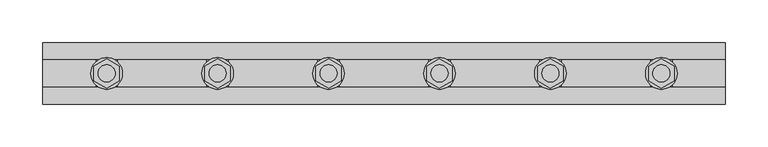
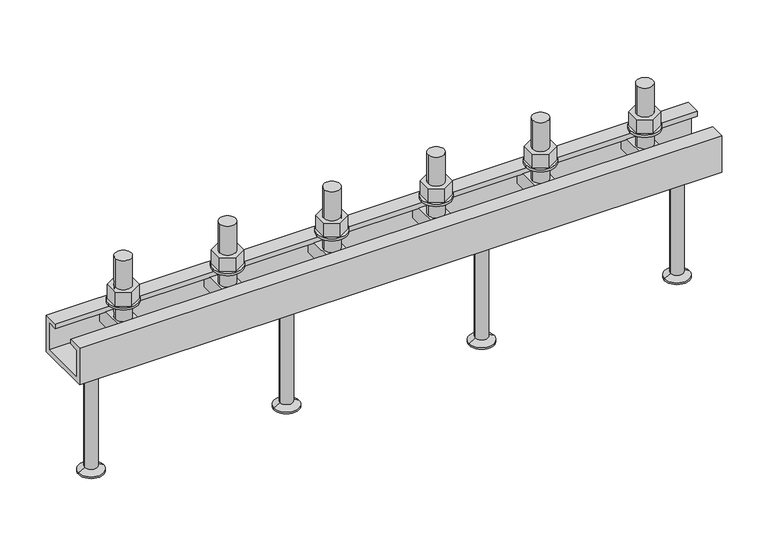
"""IFC4 building model written with IfcOpenShell, lengths in millimetres: fastener geometry, JTA-K JORDAHL® AnchorChannels : JTA-K L=800 mm."""

from ifc_helpers import new_model, si_unit, point, frame, frame_2d, origin, place, context, project, spatial, polyline, circle_curve, trimmed, segment, composite_curve, outline, extrude, source, transform, mapped, element, save
from ifc_brep_helpers import plane_surface, cylinder_surface, revolved_surface, advanced_brep


def fastener_f4c04970(model_context):
    return source(origin(), model_context, "Body", "SolidModel", [
        extrude(outline(polyline([(595.0, -17.3205081), (580.0, -8.660254), (580.0, 8.660254), (595.0, 17.3205081), (610.0, 8.660254), (610.0, -8.660254), (595.0, -17.3205081)]), holes=[composite_curve([segment(trimmed(circle_curve(frame_2d((595.0, 0.0)), 10.0), [point((585.0, 0.0))], [point((605.0, 0.0))], True, "CARTESIAN"), True, "CONTINUOUS"), segment(trimmed(circle_curve(frame_2d((595.0, 0.0)), 10.0), [point((605.0, 0.0))], [point((585.0, 0.0))], True, "CARTESIAN"), True, "CONTINUOUS")], self_intersect=False)]), frame((0.0, 0.0, 18.0), z_axis=(0.0, 0.0, 1.0), x_axis=(1.0, 0.0, 0.0)), (0.0, 0.0, 1.0), 18.0),
        extrude(outline(composite_curve([segment(trimmed(circle_curve(frame_2d((595.0, 0.0)), 18.5), [point((576.5, 0.0))], [point((613.5, 0.0))], False, "CARTESIAN"), True, "CONTINUOUS"), segment(trimmed(circle_curve(frame_2d((595.0, 0.0)), 18.5), [point((613.5, 0.0))], [point((576.5, 0.0))], False, "CARTESIAN"), True, "CONTINUOUS")], self_intersect=False), holes=[composite_curve([segment(trimmed(circle_curve(frame_2d((595.0, 0.0)), 10.5), [point((584.5, 0.0))], [point((605.5, 0.0))], True, "CARTESIAN"), True, "CONTINUOUS"), segment(trimmed(circle_curve(frame_2d((595.0, 0.0)), 10.5), [point((605.5, 0.0))], [point((584.5, 0.0))], True, "CARTESIAN"), True, "CONTINUOUS")], self_intersect=False)]), frame((0.0, 0.0, 15.0), z_axis=(0.0, 0.0, 1.0), x_axis=(1.0, 0.0, 0.0)), (0.0, 0.0, 1.0), 3.0),
        extrude(outline(polyline([(465.0, -17.3205081), (450.0, -8.660254), (450.0, 8.660254), (465.0, 17.3205081), (480.0, 8.660254), (480.0, -8.660254), (465.0, -17.3205081)]), holes=[composite_curve([segment(trimmed(circle_curve(frame_2d((465.0, 0.0)), 10.0), [point((455.0, 0.0))], [point((475.0, 0.0))], True, "CARTESIAN"), True, "CONTINUOUS"), segment(trimmed(circle_curve(frame_2d((465.0, 0.0)), 10.0), [point((475.0, 0.0))], [point((455.0, 0.0))], True, "CARTESIAN"), True, "CONTINUOUS")], self_intersect=False)]), frame((0.0, 0.0, 18.0), z_axis=(0.0, 0.0, 1.0), x_axis=(1.0, 0.0, 0.0)), (0.0, 0.0, 1.0), 18.0),
        extrude(outline(composite_curve([segment(trimmed(circle_curve(frame_2d((465.0, 0.0)), 18.5), [point((446.5, 0.0))], [point((483.5, 0.0))], False, "CARTESIAN"), True, "CONTINUOUS"), segment(trimmed(circle_curve(frame_2d((465.0, 0.0)), 18.5), [point((483.5, 0.0))], [point((446.5, 0.0))], False, "CARTESIAN"), True, "CONTINUOUS")], self_intersect=False), holes=[composite_curve([segment(trimmed(circle_curve(frame_2d((465.0, 0.0)), 10.5), [point((454.5, 0.0))], [point((475.5, 0.0))], True, "CARTESIAN"), True, "CONTINUOUS"), segment(trimmed(circle_curve(frame_2d((465.0, 0.0)), 10.5), [point((475.5, 0.0))], [point((454.5, 0.0))], True, "CARTESIAN"), True, "CONTINUOUS")], self_intersect=False)]), frame((0.0, 0.0, 15.0), z_axis=(0.0, 0.0, 1.0), x_axis=(1.0, 0.0, 0.0)), (0.0, 0.0, 1.0), 3.0),
        extrude(outline(polyline([(335.0, -17.3205081), (320.0, -8.660254), (320.0, 8.660254), (335.0, 17.3205081), (350.0, 8.660254), (350.0, -8.660254), (335.0, -17.3205081)]), holes=[composite_curve([segment(trimmed(circle_curve(frame_2d((335.0, 0.0)), 10.0), [point((325.0, 0.0))], [point((345.0, 0.0))], True, "CARTESIAN"), True, "CONTINUOUS"), segment(trimmed(circle_curve(frame_2d((335.0, 0.0)), 10.0), [point((345.0, 0.0))], [point((325.0, 0.0))], True, "CARTESIAN"), True, "CONTINUOUS")], self_intersect=False)]), frame((0.0, 0.0, 18.0), z_axis=(0.0, 0.0, 1.0), x_axis=(1.0, 0.0, 0.0)), (0.0, 0.0, 1.0), 18.0),
        extrude(outline(composite_curve([segment(trimmed(circle_curve(frame_2d((335.0, 0.0)), 18.5), [point((316.5, 0.0))], [point((353.5, 0.0))], False, "CARTESIAN"), True, "CONTINUOUS"), segment(trimmed(circle_curve(frame_2d((335.0, 0.0)), 18.5), [point((353.5, 0.0))], [point((316.5, 0.0))], False, "CARTESIAN"), True, "CONTINUOUS")], self_intersect=False), holes=[composite_curve([segment(trimmed(circle_curve(frame_2d((335.0, 0.0)), 10.5), [point((324.5, 0.0))], [point((345.5, 0.0))], True, "CARTESIAN"), True, "CONTINUOUS"), segment(trimmed(circle_curve(frame_2d((335.0, 0.0)), 10.5), [point((345.5, 0.0))], [point((324.5, 0.0))], True, "CARTESIAN"), True, "CONTINUOUS")], self_intersect=False)]), frame((0.0, 0.0, 15.0), z_axis=(0.0, 0.0, 1.0), x_axis=(1.0, 0.0, 0.0)), (0.0, 0.0, 1.0), 3.0),
        extrude(outline(polyline([(205.0, -17.3205081), (190.0, -8.660254), (190.0, 8.660254), (205.0, 17.3205081), (220.0, 8.660254), (220.0, -8.660254), (205.0, -17.3205081)]), holes=[composite_curve([segment(trimmed(circle_curve(frame_2d((205.0, 0.0)), 10.0), [point((195.0, 0.0))], [point((215.0, 0.0))], True, "CARTESIAN"), True, "CONTINUOUS"), segment(trimmed(circle_curve(frame_2d((205.0, 0.0)), 10.0), [point((215.0, 0.0))], [point((195.0, 0.0))], True, "CARTESIAN"), True, "CONTINUOUS")], self_intersect=False)]), frame((0.0, 0.0, 18.0), z_axis=(0.0, 0.0, 1.0), x_axis=(1.0, 0.0, 0.0)), (0.0, 0.0, 1.0), 18.0),
        extrude(outline(composite_curve([segment(trimmed(circle_curve(frame_2d((205.0, 0.0)), 18.5), [point((186.5, 0.0))], [point((223.5, 0.0))], False, "CARTESIAN"), True, "CONTINUOUS"), segment(trimmed(circle_curve(frame_2d((205.0, 0.0)), 18.5), [point((223.5, 0.0))], [point((186.5, 0.0))], False, "CARTESIAN"), True, "CONTINUOUS")], self_intersect=False), holes=[composite_curve([segment(trimmed(circle_curve(frame_2d((205.0, 0.0)), 10.5), [point((194.5, 0.0))], [point((215.5, 0.0))], True, "CARTESIAN"), True, "CONTINUOUS"), segment(trimmed(circle_curve(frame_2d((205.0, 0.0)), 10.5), [point((215.5, 0.0))], [point((194.5, 0.0))], True, "CARTESIAN"), True, "CONTINUOUS")], self_intersect=False)]), frame((0.0, 0.0, 15.0), z_axis=(0.0, 0.0, 1.0), x_axis=(1.0, 0.0, 0.0)), (0.0, 0.0, 1.0), 3.0),
        advanced_brep(
        [(607.5, -29.0, -6.0), (607.5, -29.0, -26.0), (607.5, 29.0, -26.0), (607.5, 29.0, -6.0), (582.5, -29.0, -6.0), (582.5, 29.0, -6.0), (582.5, 29.0, -26.0), (582.5, -29.0, -26.0), (605.0, 0.0, -6.0), (585.0, 0.0, -6.0), (585.0, 0.0, 74.0), (605.0, 0.0, 74.0)],
        [
            (0, 1),
            (1, 2),
            (2, 3),
            (3, 0),
            (4, 5),
            (5, 6),
            (6, 7),
            (7, 4),
            (3, 5),
            (4, 0),
            (8, 9, circle_curve(frame((595.0, 0.0, -6.0), z_axis=(0.0, 0.0, -1.0), x_axis=(1.0, 0.0, 0.0)), 10.0)),
            (9, 8, circle_curve(frame((595.0, 0.0, -6.0), z_axis=(0.0, 0.0, -1.0), x_axis=(1.0, 0.0, 0.0)), 10.0)),
            (2, 6),
            (1, 7),
            (10, 11, circle_curve(frame((595.0, 0.0, 74.0), z_axis=(0.0, 0.0, 1.0), x_axis=(1.0, 0.0, 0.0)), 10.0)),
            (11, 10, circle_curve(frame((595.0, 0.0, 74.0), z_axis=(0.0, 0.0, 1.0), x_axis=(1.0, 0.0, 0.0)), 10.0)),
            (11, 8),
            (9, 10),
        ],
        [
            plane_surface(frame((607.5, 29.0, -6.0), z_axis=(1.0, 0.0, 0.0), x_axis=(0.0, 1.0, 0.0))),
            plane_surface(frame((582.5, 29.0, -6.0), z_axis=(-1.0, 0.0, 0.0), x_axis=(0.0, -1.0, 0.0))),
            plane_surface(frame((607.5, -29.0, -6.0), z_axis=(0.0, 0.0, 1.0), x_axis=(-1.0, 0.0, 0.0))),
            plane_surface(frame((607.5, 29.0, -6.0), z_axis=(0.0, 1.0, 0.0), x_axis=(-1.0, 0.0, 0.0))),
            plane_surface(frame((607.5, 29.0, -26.0), z_axis=(0.0, 0.0, -1.0), x_axis=(-1.0, 0.0, 0.0))),
            plane_surface(frame((607.5, -29.0, -26.0), z_axis=(0.0, -1.0, 0.0), x_axis=(-1.0, 0.0, 0.0))),
            plane_surface(frame((605.0, 0.0, 74.0), z_axis=(0.0, 0.0, 1.0), x_axis=(0.0, -1.0, 0.0))),
            cylinder_surface(frame((595.0, 0.0, -6.0), z_axis=(0.0, 0.0, 1.0), x_axis=(1.0, 0.0, 0.0)), 10.0),
        ],
        [
            (0, [[1, 2, 3, 4]]),
            (1, [[5, 6, 7, 8]]),
            (2, [[9, -5, 10, -4], [11, 12]]),
            (3, [[13, -6, -9, -3]]),
            (4, [[14, -7, -13, -2]]),
            (5, [[-10, -8, -14, -1]]),
            (6, [[15, 16]]),
            (7, [[17, -12, 18, -16]]),
            (7, [[-18, -11, -17, -15]]),
        ],
    ),
        advanced_brep(
        [(477.5, -29.0, -6.0), (477.5, -29.0, -26.0), (477.5, 29.0, -26.0), (477.5, 29.0, -6.0), (452.5, -29.0, -6.0), (452.5, 29.0, -6.0), (452.5, 29.0, -26.0), (452.5, -29.0, -26.0), (475.0, 0.0, -6.0), (455.0, 0.0, -6.0), (455.0, 0.0, 74.0), (475.0, 0.0, 74.0)],
        [
            (0, 1),
            (1, 2),
            (2, 3),
            (3, 0),
            (4, 5),
            (5, 6),
            (6, 7),
            (7, 4),
            (3, 5),
            (4, 0),
            (8, 9, circle_curve(frame((465.0, 0.0, -6.0), z_axis=(0.0, 0.0, -1.0), x_axis=(1.0, 0.0, 0.0)), 10.0)),
            (9, 8, circle_curve(frame((465.0, 0.0, -6.0), z_axis=(0.0, 0.0, -1.0), x_axis=(1.0, 0.0, 0.0)), 10.0)),
            (2, 6),
            (1, 7),
            (10, 11, circle_curve(frame((465.0, 0.0, 74.0), z_axis=(0.0, 0.0, 1.0), x_axis=(1.0, 0.0, 0.0)), 10.0)),
            (11, 10, circle_curve(frame((465.0, 0.0, 74.0), z_axis=(0.0, 0.0, 1.0), x_axis=(1.0, 0.0, 0.0)), 10.0)),
            (11, 8),
            (9, 10),
        ],
        [
            plane_surface(frame((477.5, 29.0, -6.0), z_axis=(1.0, 0.0, 0.0), x_axis=(0.0, 1.0, 0.0))),
            plane_surface(frame((452.5, 29.0, -6.0), z_axis=(-1.0, 0.0, 0.0), x_axis=(0.0, -1.0, 0.0))),
            plane_surface(frame((477.5, -29.0, -6.0), z_axis=(0.0, 0.0, 1.0), x_axis=(-1.0, 0.0, 0.0))),
            plane_surface(frame((477.5, 29.0, -6.0), z_axis=(0.0, 1.0, 0.0), x_axis=(-1.0, 0.0, 0.0))),
            plane_surface(frame((477.5, 29.0, -26.0), z_axis=(0.0, 0.0, -1.0), x_axis=(-1.0, 0.0, 0.0))),
            plane_surface(frame((477.5, -29.0, -26.0), z_axis=(0.0, -1.0, 0.0), x_axis=(-1.0, 0.0, 0.0))),
            plane_surface(frame((475.0, 0.0, 74.0), z_axis=(0.0, 0.0, 1.0), x_axis=(0.0, -1.0, 0.0))),
            cylinder_surface(frame((465.0, 0.0, -6.0), z_axis=(0.0, 0.0, 1.0), x_axis=(1.0, 0.0, 0.0)), 10.0),
        ],
        [
            (0, [[1, 2, 3, 4]]),
            (1, [[5, 6, 7, 8]]),
            (2, [[9, -5, 10, -4], [11, 12]]),
            (3, [[13, -6, -9, -3]]),
            (4, [[14, -7, -13, -2]]),
            (5, [[-10, -8, -14, -1]]),
            (6, [[15, 16]]),
            (7, [[17, -12, 18, -16]]),
            (7, [[-18, -11, -17, -15]]),
        ],
    ),
        advanced_brep(
        [(347.5, -29.0, -6.0), (347.5, -29.0, -26.0), (347.5, 29.0, -26.0), (347.5, 29.0, -6.0), (322.5, -29.0, -6.0), (322.5, 29.0, -6.0), (322.5, 29.0, -26.0), (322.5, -29.0, -26.0), (345.0, 0.0, -6.0), (325.0, 0.0, -6.0), (325.0, 0.0, 74.0), (345.0, 0.0, 74.0)],
        [
            (0, 1),
            (1, 2),
            (2, 3),
            (3, 0),
            (4, 5),
            (5, 6),
            (6, 7),
            (7, 4),
            (3, 5),
            (4, 0),
            (8, 9, circle_curve(frame((335.0, 0.0, -6.0), z_axis=(0.0, 0.0, -1.0), x_axis=(1.0, 0.0, 0.0)), 10.0)),
            (9, 8, circle_curve(frame((335.0, 0.0, -6.0), z_axis=(0.0, 0.0, -1.0), x_axis=(1.0, 0.0, 0.0)), 10.0)),
            (2, 6),
            (1, 7),
            (10, 11, circle_curve(frame((335.0, 0.0, 74.0), z_axis=(0.0, 0.0, 1.0), x_axis=(1.0, 0.0, 0.0)), 10.0)),
            (11, 10, circle_curve(frame((335.0, 0.0, 74.0), z_axis=(0.0, 0.0, 1.0), x_axis=(1.0, 0.0, 0.0)), 10.0)),
            (11, 8),
            (9, 10),
        ],
        [
            plane_surface(frame((347.5, 29.0, -6.0), z_axis=(1.0, 0.0, 0.0), x_axis=(0.0, 1.0, 0.0))),
            plane_surface(frame((322.5, 29.0, -6.0), z_axis=(-1.0, 0.0, 0.0), x_axis=(0.0, -1.0, 0.0))),
            plane_surface(frame((347.5, -29.0, -6.0), z_axis=(0.0, 0.0, 1.0), x_axis=(-1.0, 0.0, 0.0))),
            plane_surface(frame((347.5, 29.0, -6.0), z_axis=(0.0, 1.0, 0.0), x_axis=(-1.0, 0.0, 0.0))),
            plane_surface(frame((347.5, 29.0, -26.0), z_axis=(0.0, 0.0, -1.0), x_axis=(-1.0, 0.0, 0.0))),
            plane_surface(frame((347.5, -29.0, -26.0), z_axis=(0.0, -1.0, 0.0), x_axis=(-1.0, 0.0, 0.0))),
            plane_surface(frame((345.0, 0.0, 74.0), z_axis=(0.0, 0.0, 1.0), x_axis=(0.0, -1.0, 0.0))),
            cylinder_surface(frame((335.0, 0.0, -6.0), z_axis=(0.0, 0.0, 1.0), x_axis=(1.0, 0.0, 0.0)), 10.0),
        ],
        [
            (0, [[1, 2, 3, 4]]),
            (1, [[5, 6, 7, 8]]),
            (2, [[9, -5, 10, -4], [11, 12]]),
            (3, [[13, -6, -9, -3]]),
            (4, [[14, -7, -13, -2]]),
            (5, [[-10, -8, -14, -1]]),
            (6, [[15, 16]]),
            (7, [[17, -12, 18, -16]]),
            (7, [[-18, -11, -17, -15]]),
        ],
    ),
        advanced_brep(
        [(217.5, -29.0, -6.0), (217.5, -29.0, -26.0), (217.5, 29.0, -26.0), (217.5, 29.0, -6.0), (192.5, -29.0, -6.0), (192.5, 29.0, -6.0), (192.5, 29.0, -26.0), (192.5, -29.0, -26.0), (215.0, 0.0, -6.0), (195.0, 0.0, -6.0), (195.0, 0.0, 74.0), (215.0, 0.0, 74.0)],
        [
            (0, 1),
            (1, 2),
            (2, 3),
            (3, 0),
            (4, 5),
            (5, 6),
            (6, 7),
            (7, 4),
            (3, 5),
            (4, 0),
            (8, 9, circle_curve(frame((205.0, 0.0, -6.0), z_axis=(0.0, 0.0, -1.0), x_axis=(1.0, 0.0, 0.0)), 10.0)),
            (9, 8, circle_curve(frame((205.0, 0.0, -6.0), z_axis=(0.0, 0.0, -1.0), x_axis=(1.0, 0.0, 0.0)), 10.0)),
            (2, 6),
            (1, 7),
            (10, 11, circle_curve(frame((205.0, 0.0, 74.0), z_axis=(0.0, 0.0, 1.0), x_axis=(1.0, 0.0, 0.0)), 10.0)),
            (11, 10, circle_curve(frame((205.0, 0.0, 74.0), z_axis=(0.0, 0.0, 1.0), x_axis=(1.0, 0.0, 0.0)), 10.0)),
            (11, 8),
            (9, 10),
        ],
        [
            plane_surface(frame((217.5, 29.0, -6.0), z_axis=(1.0, 0.0, 0.0), x_axis=(0.0, 1.0, 0.0))),
            plane_surface(frame((192.5, 29.0, -6.0), z_axis=(-1.0, 0.0, 0.0), x_axis=(0.0, -1.0, 0.0))),
            plane_surface(frame((217.5, -29.0, -6.0), z_axis=(0.0, 0.0, 1.0), x_axis=(-1.0, 0.0, 0.0))),
            plane_surface(frame((217.5, 29.0, -6.0), z_axis=(0.0, 1.0, 0.0), x_axis=(-1.0, 0.0, 0.0))),
            plane_surface(frame((217.5, 29.0, -26.0), z_axis=(0.0, 0.0, -1.0), x_axis=(-1.0, 0.0, 0.0))),
            plane_surface(frame((217.5, -29.0, -26.0), z_axis=(0.0, -1.0, 0.0), x_axis=(-1.0, 0.0, 0.0))),
            plane_surface(frame((215.0, 0.0, 74.0), z_axis=(0.0, 0.0, 1.0), x_axis=(0.0, -1.0, 0.0))),
            cylinder_surface(frame((205.0, 0.0, -6.0), z_axis=(0.0, 0.0, 1.0), x_axis=(1.0, 0.0, 0.0)), 10.0),
        ],
        [
            (0, [[1, 2, 3, 4]]),
            (1, [[5, 6, 7, 8]]),
            (2, [[9, -5, 10, -4], [11, 12]]),
            (3, [[13, -6, -9, -3]]),
            (4, [[14, -7, -13, -2]]),
            (5, [[-10, -8, -14, -1]]),
            (6, [[15, 16]]),
            (7, [[17, -12, 18, -16]]),
            (7, [[-18, -11, -17, -15]]),
        ],
    ),
        advanced_brep(
        [(521.6666667, 0.0, -48.0), (498.6666667, 0.0, -48.0), (544.6666667, 0.0, -48.0), (506.1666667, 0.0, -195.0), (521.6666667, 0.0, -195.0), (537.1666667, 0.0, -195.0), (506.1666667, 0.0, -193.0), (537.1666667, 0.0, -193.0), (513.8666667, 0.0, -188.5544029), (529.4666667, 0.0, -188.5544029), (513.8666667, 0.0, -52.0), (529.4666667, 0.0, -52.0)],
        [
            (0, 1),
            (1, 2, circle_curve(frame((521.6666667, 0.0, -48.0), z_axis=(0.0, 0.0, 1.0), x_axis=(1.0, 0.0, 0.0)), 23.0)),
            (2, 0),
            (2, 1, circle_curve(frame((521.6666667, 0.0, -48.0), z_axis=(0.0, 0.0, 1.0), x_axis=(1.0, 0.0, 0.0)), 23.0)),
            (3, 4),
            (4, 5),
            (5, 3, circle_curve(frame((521.6666667, 0.0, -195.0), z_axis=(0.0, 0.0, -1.0), x_axis=(1.0, 0.0, 0.0)), 15.5)),
            (3, 5, circle_curve(frame((521.6666667, 0.0, -195.0), z_axis=(0.0, 0.0, -1.0), x_axis=(1.0, 0.0, 0.0)), 15.5)),
            (6, 3),
            (5, 7),
            (7, 6, circle_curve(frame((521.6666667, 0.0, -193.0), z_axis=(0.0, 0.0, -1.0), x_axis=(1.0, 0.0, 0.0)), 15.5)),
            (6, 7, circle_curve(frame((521.6666667, 0.0, -193.0), z_axis=(0.0, 0.0, -1.0), x_axis=(1.0, 0.0, 0.0)), 15.5)),
            (8, 6),
            (7, 9),
            (9, 8, circle_curve(frame((521.6666667, 0.0, -188.5544029), z_axis=(0.0, 0.0, -1.0), x_axis=(1.0, 0.0, 0.0)), 7.8)),
            (8, 9, circle_curve(frame((521.6666667, 0.0, -188.5544029), z_axis=(0.0, 0.0, -1.0), x_axis=(1.0, 0.0, 0.0)), 7.8)),
            (10, 8),
            (9, 11),
            (11, 10, circle_curve(frame((521.6666667, 0.0, -52.0), z_axis=(0.0, 0.0, -1.0), x_axis=(1.0, 0.0, 0.0)), 7.8)),
            (10, 11, circle_curve(frame((521.6666667, 0.0, -52.0), z_axis=(0.0, 0.0, -1.0), x_axis=(1.0, 0.0, 0.0)), 7.8)),
            (1, 10),
            (11, 2),
        ],
        [
            plane_surface(frame((521.6666667, 0.0, -48.0), z_axis=(0.0, 0.0, 1.0), x_axis=(1.0, 0.0, 0.0))),
            plane_surface(frame((521.6666667, 0.0, -195.0), z_axis=(0.0, 0.0, -1.0), x_axis=(1.0, 0.0, 0.0))),
            cylinder_surface(frame((521.6666667, 0.0, 2361.3150031), z_axis=(0.0, 0.0, 1.0), x_axis=(1.0, 0.0, 0.0)), 15.5),
            revolved_surface(polyline([(537.1666667, 0.0, -193.0), (529.4666667, 0.0, -188.5544029)]), (521.6666667, 0.0, 2361.3150031), (0.0, 0.0, 1.0)),
            cylinder_surface(frame((521.6666667, 0.0, 2361.3150031), z_axis=(0.0, 0.0, 1.0), x_axis=(1.0, 0.0, 0.0)), 7.8),
            revolved_surface(polyline([(529.4666667, 0.0, -52.0), (544.6666667, 0.0, -48.0)]), (521.6666667, 0.0, 2361.3150031), (0.0, 0.0, 1.0)),
        ],
        [
            (0, [[1, 2, 3]]),
            (0, [[-3, 4, -1]]),
            (1, [[5, 6, 7]]),
            (1, [[-6, -5, 8]]),
            (2, [[9, -7, 10, 11]]),
            (2, [[-10, -8, -9, 12]]),
            (3, [[13, -11, 14, 15]]),
            (3, [[-14, -12, -13, 16]]),
            (4, [[17, -15, 18, 19]]),
            (4, [[-18, -16, -17, 20]]),
            (5, [[21, -19, 22, -2]]),
            (5, [[-22, -20, -21, -4]]),
        ],
    ),
        advanced_brep(
        [(278.3333333, 0.0, -48.0), (255.3333333, 0.0, -48.0), (301.3333333, 0.0, -48.0), (262.8333333, 0.0, -195.0), (278.3333333, 0.0, -195.0), (293.8333333, 0.0, -195.0), (262.8333333, 0.0, -193.0), (293.8333333, 0.0, -193.0), (270.5333333, 0.0, -188.5544029), (286.1333333, 0.0, -188.5544029), (270.5333333, 0.0, -52.0), (286.1333333, 0.0, -52.0)],
        [
            (0, 1),
            (1, 2, circle_curve(frame((278.3333333, 0.0, -48.0), z_axis=(0.0, 0.0, 1.0), x_axis=(1.0, 0.0, 0.0)), 23.0)),
            (2, 0),
            (2, 1, circle_curve(frame((278.3333333, 0.0, -48.0), z_axis=(0.0, 0.0, 1.0), x_axis=(1.0, 0.0, 0.0)), 23.0)),
            (3, 4),
            (4, 5),
            (5, 3, circle_curve(frame((278.3333333, 0.0, -195.0), z_axis=(0.0, 0.0, -1.0), x_axis=(1.0, 0.0, 0.0)), 15.5)),
            (3, 5, circle_curve(frame((278.3333333, 0.0, -195.0), z_axis=(0.0, 0.0, -1.0), x_axis=(1.0, 0.0, 0.0)), 15.5)),
            (6, 3),
            (5, 7),
            (7, 6, circle_curve(frame((278.3333333, 0.0, -193.0), z_axis=(0.0, 0.0, -1.0), x_axis=(1.0, 0.0, 0.0)), 15.5)),
            (6, 7, circle_curve(frame((278.3333333, 0.0, -193.0), z_axis=(0.0, 0.0, -1.0), x_axis=(1.0, 0.0, 0.0)), 15.5)),
            (8, 6),
            (7, 9),
            (9, 8, circle_curve(frame((278.3333333, 0.0, -188.5544029), z_axis=(0.0, 0.0, -1.0), x_axis=(1.0, 0.0, 0.0)), 7.8)),
            (8, 9, circle_curve(frame((278.3333333, 0.0, -188.5544029), z_axis=(0.0, 0.0, -1.0), x_axis=(1.0, 0.0, 0.0)), 7.8)),
            (10, 8),
            (9, 11),
            (11, 10, circle_curve(frame((278.3333333, 0.0, -52.0), z_axis=(0.0, 0.0, -1.0), x_axis=(1.0, 0.0, 0.0)), 7.8)),
            (10, 11, circle_curve(frame((278.3333333, 0.0, -52.0), z_axis=(0.0, 0.0, -1.0), x_axis=(1.0, 0.0, 0.0)), 7.8)),
            (1, 10),
            (11, 2),
        ],
        [
            plane_surface(frame((278.3333333, 0.0, -48.0), z_axis=(0.0, 0.0, 1.0), x_axis=(1.0, 0.0, 0.0))),
            plane_surface(frame((278.3333333, 0.0, -195.0), z_axis=(0.0, 0.0, -1.0), x_axis=(1.0, 0.0, 0.0))),
            cylinder_surface(frame((278.3333333, 0.0, 2361.3150031), z_axis=(0.0, 0.0, 1.0), x_axis=(1.0, 0.0, 0.0)), 15.5),
            revolved_surface(polyline([(293.8333333, 0.0, -193.0), (286.1333333, 0.0, -188.5544029)]), (278.3333333, 0.0, 2361.3150031), (0.0, 0.0, 1.0)),
            cylinder_surface(frame((278.3333333, 0.0, 2361.3150031), z_axis=(0.0, 0.0, 1.0), x_axis=(1.0, 0.0, 0.0)), 7.8),
            revolved_surface(polyline([(286.1333333, 0.0, -52.0), (301.3333333, 0.0, -48.0)]), (278.3333333, 0.0, 2361.3150031), (0.0, 0.0, 1.0)),
        ],
        [
            (0, [[1, 2, 3]]),
            (0, [[-3, 4, -1]]),
            (1, [[5, 6, 7]]),
            (1, [[-6, -5, 8]]),
            (2, [[9, -7, 10, 11]]),
            (2, [[-10, -8, -9, 12]]),
            (3, [[13, -11, 14, 15]]),
            (3, [[-14, -12, -13, 16]]),
            (4, [[17, -15, 18, 19]]),
            (4, [[-18, -16, -17, 20]]),
            (5, [[21, -19, 22, -2]]),
            (5, [[-22, -20, -21, -4]]),
        ],
    ),
        extrude(outline(polyline([(725.0, -17.3205081), (710.0, -8.660254), (710.0, 8.660254), (725.0, 17.3205081), (740.0, 8.660254), (740.0, -8.660254), (725.0, -17.3205081)]), holes=[composite_curve([segment(trimmed(circle_curve(frame_2d((725.0, 0.0)), 10.0), [point((715.0, 0.0))], [point((735.0, 0.0))], True, "CARTESIAN"), True, "CONTINUOUS"), segment(trimmed(circle_curve(frame_2d((725.0, 0.0)), 10.0), [point((735.0, 0.0))], [point((715.0, 0.0))], True, "CARTESIAN"), True, "CONTINUOUS")], self_intersect=False)]), frame((0.0, 0.0, 18.0), z_axis=(0.0, 0.0, 1.0), x_axis=(1.0, 0.0, 0.0)), (0.0, 0.0, 1.0), 18.0),
        extrude(outline(composite_curve([segment(trimmed(circle_curve(frame_2d((725.0, 0.0)), 18.5), [point((706.5, 0.0))], [point((743.5, 0.0))], False, "CARTESIAN"), True, "CONTINUOUS"), segment(trimmed(circle_curve(frame_2d((725.0, 0.0)), 18.5), [point((743.5, 0.0))], [point((706.5, 0.0))], False, "CARTESIAN"), True, "CONTINUOUS")], self_intersect=False), holes=[composite_curve([segment(trimmed(circle_curve(frame_2d((725.0, 0.0)), 10.5), [point((714.5, 0.0))], [point((735.5, 0.0))], True, "CARTESIAN"), True, "CONTINUOUS"), segment(trimmed(circle_curve(frame_2d((725.0, 0.0)), 10.5), [point((735.5, 0.0))], [point((714.5, 0.0))], True, "CARTESIAN"), True, "CONTINUOUS")], self_intersect=False)]), frame((0.0, 0.0, 15.0), z_axis=(0.0, 0.0, 1.0), x_axis=(1.0, 0.0, 0.0)), (0.0, 0.0, 1.0), 3.0),
        extrude(outline(polyline([(75.0, -17.3205081), (60.0, -8.660254), (60.0, 8.660254), (75.0, 17.3205081), (90.0, 8.660254), (90.0, -8.660254), (75.0, -17.3205081)]), holes=[composite_curve([segment(trimmed(circle_curve(frame_2d((75.0, 0.0)), 10.0), [point((65.0, 0.0))], [point((85.0, 0.0))], True, "CARTESIAN"), True, "CONTINUOUS"), segment(trimmed(circle_curve(frame_2d((75.0, 0.0)), 10.0), [point((85.0, 0.0))], [point((65.0, 0.0))], True, "CARTESIAN"), True, "CONTINUOUS")], self_intersect=False)]), frame((0.0, 0.0, 18.0), z_axis=(0.0, 0.0, 1.0), x_axis=(1.0, 0.0, 0.0)), (0.0, 0.0, 1.0), 18.0),
        extrude(outline(composite_curve([segment(trimmed(circle_curve(frame_2d((75.0, 0.0)), 18.5), [point((56.5, 0.0))], [point((93.5, 0.0))], False, "CARTESIAN"), True, "CONTINUOUS"), segment(trimmed(circle_curve(frame_2d((75.0, 0.0)), 18.5), [point((93.5, 0.0))], [point((56.5, 0.0))], False, "CARTESIAN"), True, "CONTINUOUS")], self_intersect=False), holes=[composite_curve([segment(trimmed(circle_curve(frame_2d((75.0, 0.0)), 10.5), [point((64.5, 0.0))], [point((85.5, 0.0))], True, "CARTESIAN"), True, "CONTINUOUS"), segment(trimmed(circle_curve(frame_2d((75.0, 0.0)), 10.5), [point((85.5, 0.0))], [point((64.5, 0.0))], True, "CARTESIAN"), True, "CONTINUOUS")], self_intersect=False)]), frame((0.0, 0.0, 15.0), z_axis=(0.0, 0.0, 1.0), x_axis=(1.0, 0.0, 0.0)), (0.0, 0.0, 1.0), 3.0),
        advanced_brep(
        [(737.5, -29.0, -6.0), (737.5, -29.0, -26.0), (737.5, 29.0, -26.0), (737.5, 29.0, -6.0), (712.5, -29.0, -6.0), (712.5, 29.0, -6.0), (712.5, 29.0, -26.0), (712.5, -29.0, -26.0), (735.0, 0.0, -6.0), (715.0, 0.0, -6.0), (715.0, 0.0, 74.0), (735.0, 0.0, 74.0)],
        [
            (0, 1),
            (1, 2),
            (2, 3),
            (3, 0),
            (4, 5),
            (5, 6),
            (6, 7),
            (7, 4),
            (3, 5),
            (4, 0),
            (8, 9, circle_curve(frame((725.0, 0.0, -6.0), z_axis=(0.0, 0.0, -1.0), x_axis=(1.0, 0.0, 0.0)), 10.0)),
            (9, 8, circle_curve(frame((725.0, 0.0, -6.0), z_axis=(0.0, 0.0, -1.0), x_axis=(1.0, 0.0, 0.0)), 10.0)),
            (2, 6),
            (1, 7),
            (10, 11, circle_curve(frame((725.0, 0.0, 74.0), z_axis=(0.0, 0.0, 1.0), x_axis=(1.0, 0.0, 0.0)), 10.0)),
            (11, 10, circle_curve(frame((725.0, 0.0, 74.0), z_axis=(0.0, 0.0, 1.0), x_axis=(1.0, 0.0, 0.0)), 10.0)),
            (11, 8),
            (9, 10),
        ],
        [
            plane_surface(frame((737.5, 29.0, -6.0), z_axis=(1.0, 0.0, 0.0), x_axis=(0.0, 1.0, 0.0))),
            plane_surface(frame((712.5, 29.0, -6.0), z_axis=(-1.0, 0.0, 0.0), x_axis=(0.0, -1.0, 0.0))),
            plane_surface(frame((737.5, -29.0, -6.0), z_axis=(0.0, 0.0, 1.0), x_axis=(-1.0, 0.0, 0.0))),
            plane_surface(frame((737.5, 29.0, -6.0), z_axis=(0.0, 1.0, 0.0), x_axis=(-1.0, 0.0, 0.0))),
            plane_surface(frame((737.5, 29.0, -26.0), z_axis=(0.0, 0.0, -1.0), x_axis=(-1.0, 0.0, 0.0))),
            plane_surface(frame((737.5, -29.0, -26.0), z_axis=(0.0, -1.0, 0.0), x_axis=(-1.0, 0.0, 0.0))),
            plane_surface(frame((735.0, 0.0, 74.0), z_axis=(0.0, 0.0, 1.0), x_axis=(0.0, -1.0, 0.0))),
            cylinder_surface(frame((725.0, 0.0, -6.0), z_axis=(0.0, 0.0, 1.0), x_axis=(1.0, 0.0, 0.0)), 10.0),
        ],
        [
            (0, [[1, 2, 3, 4]]),
            (1, [[5, 6, 7, 8]]),
            (2, [[9, -5, 10, -4], [11, 12]]),
            (3, [[13, -6, -9, -3]]),
            (4, [[14, -7, -13, -2]]),
            (5, [[-10, -8, -14, -1]]),
            (6, [[15, 16]]),
            (7, [[17, -12, 18, -16]]),
            (7, [[-18, -11, -17, -15]]),
        ],
    ),
        advanced_brep(
        [(87.5, -29.0, -6.0), (87.5, -29.0, -26.0), (87.5, 29.0, -26.0), (87.5, 29.0, -6.0), (62.5, -29.0, -6.0), (62.5, 29.0, -6.0), (62.5, 29.0, -26.0), (62.5, -29.0, -26.0), (85.0, 0.0, -6.0), (65.0, 0.0, -6.0), (65.0, 0.0, 74.0), (85.0, 0.0, 74.0)],
        [
            (0, 1),
            (1, 2),
            (2, 3),
            (3, 0),
            (4, 5),
            (5, 6),
            (6, 7),
            (7, 4),
            (3, 5),
            (4, 0),
            (8, 9, circle_curve(frame((75.0, 0.0, -6.0), z_axis=(0.0, 0.0, -1.0), x_axis=(1.0, 0.0, 0.0)), 10.0)),
            (9, 8, circle_curve(frame((75.0, 0.0, -6.0), z_axis=(0.0, 0.0, -1.0), x_axis=(1.0, 0.0, 0.0)), 10.0)),
            (2, 6),
            (1, 7),
            (10, 11, circle_curve(frame((75.0, 0.0, 74.0), z_axis=(0.0, 0.0, 1.0), x_axis=(1.0, 0.0, 0.0)), 10.0)),
            (11, 10, circle_curve(frame((75.0, 0.0, 74.0), z_axis=(0.0, 0.0, 1.0), x_axis=(1.0, 0.0, 0.0)), 10.0)),
            (11, 8),
            (9, 10),
        ],
        [
            plane_surface(frame((87.5, 29.0, -6.0), z_axis=(1.0, 0.0, 0.0), x_axis=(0.0, 1.0, 0.0))),
            plane_surface(frame((62.5, 29.0, -6.0), z_axis=(-1.0, 0.0, 0.0), x_axis=(0.0, -1.0, 0.0))),
            plane_surface(frame((87.5, -29.0, -6.0), z_axis=(0.0, 0.0, 1.0), x_axis=(-1.0, 0.0, 0.0))),
            plane_surface(frame((87.5, 29.0, -6.0), z_axis=(0.0, 1.0, 0.0), x_axis=(-1.0, 0.0, 0.0))),
            plane_surface(frame((87.5, 29.0, -26.0), z_axis=(0.0, 0.0, -1.0), x_axis=(-1.0, 0.0, 0.0))),
            plane_surface(frame((87.5, -29.0, -26.0), z_axis=(0.0, -1.0, 0.0), x_axis=(-1.0, 0.0, 0.0))),
            plane_surface(frame((85.0, 0.0, 74.0), z_axis=(0.0, 0.0, 1.0), x_axis=(0.0, -1.0, 0.0))),
            cylinder_surface(frame((75.0, 0.0, -6.0), z_axis=(0.0, 0.0, 1.0), x_axis=(1.0, 0.0, 0.0)), 10.0),
        ],
        [
            (0, [[1, 2, 3, 4]]),
            (1, [[5, 6, 7, 8]]),
            (2, [[9, -5, 10, -4], [11, 12]]),
            (3, [[13, -6, -9, -3]]),
            (4, [[14, -7, -13, -2]]),
            (5, [[-10, -8, -14, -1]]),
            (6, [[15, 16]]),
            (7, [[17, -12, 18, -16]]),
            (7, [[-18, -11, -17, -15]]),
        ],
    ),
        advanced_brep(
        [(765.0, 0.0, -48.0), (742.0, 0.0, -48.0), (788.0, 0.0, -48.0), (749.5, 0.0, -195.0), (765.0, 0.0, -195.0), (780.5, 0.0, -195.0), (749.5, 0.0, -193.0), (780.5, 0.0, -193.0), (757.2, 0.0, -188.5544029), (772.8, 0.0, -188.5544029), (757.2, 0.0, -52.0), (772.8, 0.0, -52.0)],
        [
            (0, 1),
            (1, 2, circle_curve(frame((765.0, 0.0, -48.0), z_axis=(0.0, 0.0, 1.0), x_axis=(1.0, 0.0, 0.0)), 23.0)),
            (2, 0),
            (2, 1, circle_curve(frame((765.0, 0.0, -48.0), z_axis=(0.0, 0.0, 1.0), x_axis=(1.0, 0.0, 0.0)), 23.0)),
            (3, 4),
            (4, 5),
            (5, 3, circle_curve(frame((765.0, 0.0, -195.0), z_axis=(0.0, 0.0, -1.0), x_axis=(1.0, 0.0, 0.0)), 15.5)),
            (3, 5, circle_curve(frame((765.0, 0.0, -195.0), z_axis=(0.0, 0.0, -1.0), x_axis=(1.0, 0.0, 0.0)), 15.5)),
            (6, 3),
            (5, 7),
            (7, 6, circle_curve(frame((765.0, 0.0, -193.0), z_axis=(0.0, 0.0, -1.0), x_axis=(1.0, 0.0, 0.0)), 15.5)),
            (6, 7, circle_curve(frame((765.0, 0.0, -193.0), z_axis=(0.0, 0.0, -1.0), x_axis=(1.0, 0.0, 0.0)), 15.5)),
            (8, 6),
            (7, 9),
            (9, 8, circle_curve(frame((765.0, 0.0, -188.5544029), z_axis=(0.0, 0.0, -1.0), x_axis=(1.0, 0.0, 0.0)), 7.8)),
            (8, 9, circle_curve(frame((765.0, 0.0, -188.5544029), z_axis=(0.0, 0.0, -1.0), x_axis=(1.0, 0.0, 0.0)), 7.8)),
            (10, 8),
            (9, 11),
            (11, 10, circle_curve(frame((765.0, 0.0, -52.0), z_axis=(0.0, 0.0, -1.0), x_axis=(1.0, 0.0, 0.0)), 7.8)),
            (10, 11, circle_curve(frame((765.0, 0.0, -52.0), z_axis=(0.0, 0.0, -1.0), x_axis=(1.0, 0.0, 0.0)), 7.8)),
            (1, 10),
            (11, 2),
        ],
        [
            plane_surface(frame((765.0, 0.0, -48.0), z_axis=(0.0, 0.0, 1.0), x_axis=(1.0, 0.0, 0.0))),
            plane_surface(frame((765.0, 0.0, -195.0), z_axis=(0.0, 0.0, -1.0), x_axis=(1.0, 0.0, 0.0))),
            cylinder_surface(frame((765.0, 0.0, 2361.3150031), z_axis=(0.0, 0.0, 1.0), x_axis=(1.0, 0.0, 0.0)), 15.5),
            revolved_surface(polyline([(780.5, 0.0, -193.0), (772.8, 0.0, -188.5544029)]), (765.0, 0.0, 2361.3150031), (0.0, 0.0, 1.0)),
            cylinder_surface(frame((765.0, 0.0, 2361.3150031), z_axis=(0.0, 0.0, 1.0), x_axis=(1.0, 0.0, 0.0)), 7.8),
            revolved_surface(polyline([(772.8, 0.0, -52.0), (788.0, 0.0, -48.0)]), (765.0, 0.0, 2361.3150031), (0.0, 0.0, 1.0)),
        ],
        [
            (0, [[1, 2, 3]]),
            (0, [[-3, 4, -1]]),
            (1, [[5, 6, 7]]),
            (1, [[-6, -5, 8]]),
            (2, [[9, -7, 10, 11]]),
            (2, [[-10, -8, -9, 12]]),
            (3, [[13, -11, 14, 15]]),
            (3, [[-14, -12, -13, 16]]),
            (4, [[17, -15, 18, 19]]),
            (4, [[-18, -16, -17, 20]]),
            (5, [[21, -19, 22, -2]]),
            (5, [[-22, -20, -21, -4]]),
        ],
    ),
        advanced_brep(
        [(35.0, 0.0, -48.0), (12.0, 0.0, -48.0), (58.0, 0.0, -48.0), (19.5, 0.0, -195.0), (35.0, 0.0, -195.0), (50.5, 0.0, -195.0), (19.5, 0.0, -193.0), (50.5, 0.0, -193.0), (27.2, 0.0, -188.5544029), (42.8, 0.0, -188.5544029), (27.2, 0.0, -52.0), (42.8, 0.0, -52.0)],
        [
            (0, 1),
            (1, 2, circle_curve(frame((35.0, 0.0, -48.0), z_axis=(0.0, 0.0, 1.0), x_axis=(1.0, 0.0, 0.0)), 23.0)),
            (2, 0),
            (2, 1, circle_curve(frame((35.0, 0.0, -48.0), z_axis=(0.0, 0.0, 1.0), x_axis=(1.0, 0.0, 0.0)), 23.0)),
            (3, 4),
            (4, 5),
            (5, 3, circle_curve(frame((35.0, 0.0, -195.0), z_axis=(0.0, 0.0, -1.0), x_axis=(1.0, 0.0, 0.0)), 15.5)),
            (3, 5, circle_curve(frame((35.0, 0.0, -195.0), z_axis=(0.0, 0.0, -1.0), x_axis=(1.0, 0.0, 0.0)), 15.5)),
            (6, 3),
            (5, 7),
            (7, 6, circle_curve(frame((35.0, 0.0, -193.0), z_axis=(0.0, 0.0, -1.0), x_axis=(1.0, 0.0, 0.0)), 15.5)),
            (6, 7, circle_curve(frame((35.0, 0.0, -193.0), z_axis=(0.0, 0.0, -1.0), x_axis=(1.0, 0.0, 0.0)), 15.5)),
            (8, 6),
            (7, 9),
            (9, 8, circle_curve(frame((35.0, 0.0, -188.5544029), z_axis=(0.0, 0.0, -1.0), x_axis=(1.0, 0.0, 0.0)), 7.8)),
            (8, 9, circle_curve(frame((35.0, 0.0, -188.5544029), z_axis=(0.0, 0.0, -1.0), x_axis=(1.0, 0.0, 0.0)), 7.8)),
            (10, 8),
            (9, 11),
            (11, 10, circle_curve(frame((35.0, 0.0, -52.0), z_axis=(0.0, 0.0, -1.0), x_axis=(1.0, 0.0, 0.0)), 7.8)),
            (10, 11, circle_curve(frame((35.0, 0.0, -52.0), z_axis=(0.0, 0.0, -1.0), x_axis=(1.0, 0.0, 0.0)), 7.8)),
            (1, 10),
            (11, 2),
        ],
        [
            plane_surface(frame((35.0, 0.0, -48.0), z_axis=(0.0, 0.0, 1.0), x_axis=(1.0, 0.0, 0.0))),
            plane_surface(frame((35.0, 0.0, -195.0), z_axis=(0.0, 0.0, -1.0), x_axis=(1.0, 0.0, 0.0))),
            cylinder_surface(frame((35.0, 0.0, 2361.3150031), z_axis=(0.0, 0.0, 1.0), x_axis=(1.0, 0.0, 0.0)), 15.5),
            revolved_surface(polyline([(50.5, 0.0, -193.0), (42.8, 0.0, -188.5544029)]), (35.0, 0.0, 2361.3150031), (0.0, 0.0, 1.0)),
            cylinder_surface(frame((35.0, 0.0, 2361.3150031), z_axis=(0.0, 0.0, 1.0), x_axis=(1.0, 0.0, 0.0)), 7.8),
            revolved_surface(polyline([(42.8, 0.0, -52.0), (58.0, 0.0, -48.0)]), (35.0, 0.0, 2361.3150031), (0.0, 0.0, 1.0)),
        ],
        [
            (0, [[1, 2, 3]]),
            (0, [[-3, 4, -1]]),
            (1, [[5, 6, 7]]),
            (1, [[-6, -5, 8]]),
            (2, [[9, -7, 10, 11]]),
            (2, [[-10, -8, -9, 12]]),
            (3, [[13, -11, 14, 15]]),
            (3, [[-14, -12, -13, 16]]),
            (4, [[17, -15, 18, 19]]),
            (4, [[-18, -16, -17, 20]]),
            (5, [[21, -19, 22, -2]]),
            (5, [[-22, -20, -21, -4]]),
        ],
    ),
        extrude(outline(polyline([(-36.0, 0.0), (-16.5, 0.0), (-16.5, -6.0), (-30.0, -6.0), (-30.0, -42.0), (30.0, -42.0), (30.0, -6.0), (16.5, -6.0), (16.5, 0.0), (36.0, 0.0), (36.0, -48.0), (-36.0, -48.0), (-36.0, 0.0)])), frame((0.0, 0.0, 0.0), z_axis=(1.0, 0.0, 0.0), x_axis=(0.0, 1.0, 0.0)), (0.0, 0.0, 1.0), 800.0),
    ])


if __name__ == "__main__":
    model = new_model("IFC4")
    model_context = context("Model", 3, world=origin())
    ifc_project = project(units=[si_unit("LENGTHUNIT", "METRE", prefix="MILLI")], contexts=[model_context])
    site = spatial("IfcSite", under=ifc_project)
    building = spatial("IfcBuilding", under=site)
    placement = place(None, origin())
    fastener_shape = fastener_f4c04970(model_context)
    element("IfcFastener", 1, ObjectType="JTA-K JORDAHL® AnchorChannels : JTA-K L=800 mm", at=placement, inside=building, context=model_context, shape_type="MappedRepresentation", body=[
        mapped(fastener_shape, transform((0.0, 0.0, 0.0), x_axis=(1.0, 0.0, 0.0), y_axis=(0.0, 1.0, 0.0), z_axis=(0.0, 0.0, 1.0))),
    ])
    save(model, "model.ifc")
